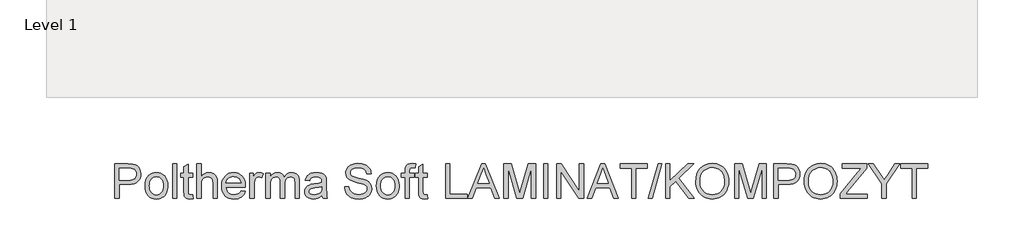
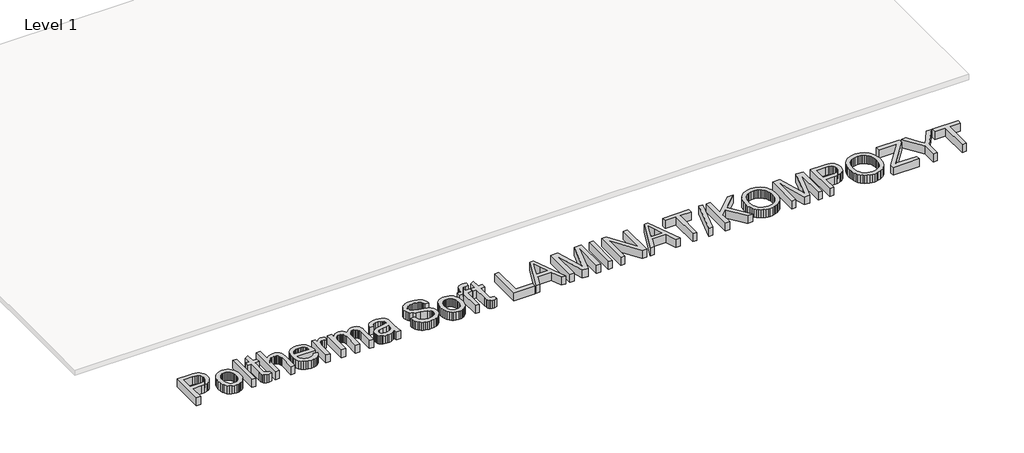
# One storey, part 25 of 27: 1 proxy.
"""IFC4 building model written with IfcOpenShell, lengths in millimetres."""

from ifc_helpers import new_model, si_unit, origin, origin_with_axes, place, context, project, spatial, polyline, outline, extrude, element, save

model = new_model("IFC4")

# Units and contexts
model_context = context("Model", 3, world=origin())
ifc_project = project(units=[si_unit("LENGTHUNIT", "METRE", prefix="MILLI")], contexts=[model_context])

# Site, building, storey
site = spatial("IfcSite", under=ifc_project)
building = spatial("IfcBuilding", under=site)
storey = spatial("IfcBuildingStorey", under=building, Name="Level 1", Elevation=0.0)

# Proxy
placement = place(None, origin())
element("IfcBuildingElementProxy", 1, Name="600mm Arial", ObjectType="600mm Arial", at=placement, inside=storey, context=model_context, shape_type="SweptSolid", body=[
    extrude(outline(polyline([(80627.0846824, -45088.4076888), (80627.0846824, -44497.6384581), (80846.02699, -44497.6384581), (80897.012567, -44499.0447081), (80934.2962208, -44503.2634581), (80973.653192, -44513.7742754), (81006.0510285, -44530.8836504), (81032.1387689, -44555.3668234), (81052.5654516, -44587.999035), (81065.762567, -44626.4906215), (81070.1616054, -44668.5519196), (81067.191353, -44704.8169436), (81058.2805958, -44738.1793234), (81043.4293338, -44768.639059), (81022.637567, -44796.1961504), (80994.0933963, -44819.0386984), (80955.9849227, -44835.3548042), (80908.3121463, -44845.1444677), (80851.075067, -44848.4076888), (80700.9308362, -44848.4076888), (80700.9308362, -45088.4076888), (80627.0846824, -45088.4076888)]), holes=[polyline([(80700.9308362, -44774.561535), (80855.40199, -44774.561535), (80890.918817, -44772.8668234), (80920.8827593, -44767.7826888), (80945.293817, -44759.3091311), (80964.15199, -44747.4461504), (80978.2235045, -44732.5092513), (80988.2745862, -44714.8139388), (80994.3052352, -44694.3602129), (80996.3154516, -44671.1480734), (80991.573865, -44637.9749965), (80977.3491054, -44609.9942273), (80955.4079997, -44588.936535), (80927.5173747, -44576.5326888), (80899.0317977, -44572.7466311), (80853.6712208, -44571.4846119), (80700.9308362, -44571.4846119), (80700.9308362, -44774.561535)])]), origin_with_axes(), (0.0, 0.0, 1.0), 150.0),
    extrude(outline(polyline([(81144.0077593, -44871.4846119), (81148.0011487, -44815.2977129), (81159.981317, -44766.8812465), (81179.9482641, -44726.2352129), (81207.90199, -44693.3596119), (81236.0450189, -44672.3469917), (81267.1087208, -44657.3379773), (81301.0930958, -44648.3325686), (81337.9981439, -44645.3307657), (81378.738829, -44648.9861143), (81415.5762689, -44659.95216), (81448.5104636, -44678.2289028), (81477.5414131, -44703.8163427), (81501.2358242, -44735.8490951), (81518.1604035, -44773.4617754), (81528.3151511, -44816.6543835), (81531.700067, -44865.4269196), (81530.2036727, -44904.9551648), (81525.71449, -44940.030285), (81518.2325189, -44970.6522802), (81507.7577593, -44996.8211504), (81494.4209203, -45019.4248162), (81478.3527112, -45039.3511984), (81459.5531319, -45056.600297), (81438.0221824, -45071.1721119), (81414.598204, -45082.7511383), (81390.1195381, -45091.0218715), (81364.5861848, -45095.9843114), (81337.9981439, -45097.6384581), (81296.6625069, -45093.9966311), (81259.4825189, -45083.0711504), (81226.4581799, -45064.8620157), (81197.58949, -45039.3692273), (81174.1474828, -45007.0254773), (81157.403192, -44968.2634581), (81147.3566174, -44923.0831696), (81144.0077593, -44871.4846119)]), holes=[polyline([(81217.8539131, -44871.3403811), (81219.9903314, -44907.1591912), (81226.3995862, -44938.1733138), (81237.0816775, -44964.3827489), (81252.0366054, -44985.7874965), (81270.2277112, -45002.4145999), (81290.6183362, -45014.2911023), (81313.2084804, -45021.4170037), (81337.9981439, -45023.7923042), (81362.6616054, -45021.4034821), (81385.1616054, -45014.2370157), (81405.4981439, -45002.2929052), (81423.6712208, -44985.5711504), (81438.6261487, -44963.9545638), (81449.30824, -44937.3259581), (81455.7174949, -44905.6853331), (81457.8539131, -44869.0326888), (81455.7039732, -44834.349696), (81449.2541535, -44804.1468715), (81438.504454, -44778.4242153), (81423.4548747, -44757.1817273), (81405.2141896, -44740.5546239), (81384.8911727, -44728.6781215), (81362.4858242, -44721.5522201), (81337.9981439, -44719.1769196), (81313.2084804, -44721.5432056), (81290.6183362, -44728.6420638), (81270.2277112, -44740.4734941), (81252.0366054, -44757.0374965), (81237.0816775, -44778.3791431), (81226.3995862, -44804.5435061), (81219.9903314, -44835.5305855), (81217.8539131, -44871.3403811)])]), origin_with_axes(), (0.0, 0.0, 1.0), 150.0),
    extrude(outline(polyline([(81614.77699, -45088.4076888), (81614.77699, -44497.6384581), (81688.6231439, -44497.6384581), (81688.6231439, -45088.4076888), (81614.77699, -45088.4076888)])), origin_with_axes(), (0.0, 0.0, 1.0), 150.0),
    extrude(outline(polyline([(81956.3154516, -45026.8211504), (81965.5462208, -45090.5711504), (81910.3058362, -45097.6384581), (81874.8611247, -45094.5735542), (81848.4308362, -45085.3788427), (81829.7529516, -45071.2081696), (81817.5654516, -45053.2153811), (81810.8587208, -45022.3139388), (81808.6231439, -44969.4173042), (81808.6231439, -44728.4076888), (81753.2385285, -44728.4076888), (81753.2385285, -44654.561535), (81808.6231439, -44654.561535), (81808.6231439, -44549.1288427), (81882.4692977, -44505.7153811), (81882.4692977, -44654.561535), (81956.3154516, -44654.561535), (81956.3154516, -44728.4076888), (81882.4692977, -44728.4076888), (81882.4692977, -44967.2538427), (81886.3635285, -45005.3307657), (81898.9837208, -45018.8163427), (81909.6387689, -45022.5483138), (81924.15199, -45023.7923042), (81956.3154516, -45026.8211504)])), origin_with_axes(), (0.0, 0.0, 1.0), 150.0),
    extrude(outline(polyline([(82030.1616054, -45088.4076888), (82030.1616054, -44497.6384581), (82104.0077593, -44497.6384581), (82104.0077593, -44714.8499965), (82131.1321583, -44684.4353331), (82161.5918939, -44662.7105734), (82195.386966, -44649.6757177), (82232.5173747, -44645.3307657), (82277.12074, -44650.0723523), (82315.450067, -44664.2971119), (82345.6303554, -44686.8872561), (82365.7866054, -44716.7249965), (82377.1447785, -44757.7225927), (82380.9308362, -44813.7923042), (82380.9308362, -45088.4076888), (82307.0846824, -45088.4076888), (82307.0846824, -44821.436535), (82305.6153314, -44796.5026407), (82301.2072785, -44775.2105734), (82293.8605237, -44757.5603331), (82283.575067, -44743.5519196), (82270.5942977, -44732.8878571), (82255.1616054, -44725.2706696), (82237.27699, -44720.7003571), (82216.9404516, -44719.1769196), (82185.7325189, -44723.2874965), (82156.4356439, -44735.6192273), (82132.168817, -44754.9822081), (82116.0510285, -44780.186535), (82107.0185766, -44813.6841311), (82104.0077593, -44857.9269196), (82104.0077593, -45088.4076888), (82030.1616054, -45088.4076888)])), origin_with_axes(), (0.0, 0.0, 1.0), 150.0),
    extrude(outline(polyline([(82786.2192977, -44959.1769196), (82858.6231439, -44968.4076888), (82847.5218819, -44997.4070879), (82832.5354035, -45022.9629773), (82813.6637088, -45045.0753571), (82790.9067977, -45063.7442273), (82764.4990453, -45078.5729532), (82734.6748266, -45089.1649004), (82701.4341415, -45095.5200686), (82664.77699, -45097.6384581), (82618.9566775, -45093.9831095), (82578.1303554, -45083.0170638), (82542.2980237, -45064.740321), (82511.4596824, -45039.1528811), (82486.6610045, -45006.9668835), (82468.9476631, -44968.8944677), (82458.3196583, -44924.9356335), (82454.77699, -44875.0903811), (82458.355716, -44823.5549244), (82469.0918939, -44778.1312465), (82486.9855237, -44738.8193475), (82512.0366054, -44705.6192273), (82542.793817, -44679.2430254), (82577.8058362, -44660.4028811), (82617.0726631, -44649.0987946), (82660.5942977, -44645.3307657), (82702.7141896, -44649.0897802), (82740.8046343, -44660.3668234), (82774.8656319, -44679.1618956), (82804.8971824, -44705.4749965), (82829.4119059, -44738.6030013), (82846.9224227, -44777.842785), (82857.4287328, -44823.1943475), (82860.9308362, -44874.6576888), (82860.4981439, -44894.561535), (82528.6231439, -44894.561535), (82532.9004876, -44924.029684), (82541.4055958, -44949.8379773), (82554.1384684, -44971.9864148), (82571.0991054, -44990.4749965), (82591.3500069, -45005.0513186), (82613.9536727, -45015.4629773), (82638.910103, -45021.7099725), (82666.2192977, -45023.7923042), (82705.5221824, -45019.9341311), (82738.6231439, -45008.3596119), (82765.5221824, -44988.3475927), (82786.2192977, -44959.1769196)]), holes=[polyline([(82528.6231439, -44820.7153811), (82787.0846824, -44820.7153811), (82777.0967016, -44781.7009581), (82768.5059564, -44766.35841), (82757.5173747, -44753.7923042), (82737.3791535, -44738.6480734), (82714.46449, -44727.8307657), (82688.7733843, -44721.3403811), (82660.3058362, -44719.1769196), (82634.3397905, -44720.9031816), (82610.528192, -44726.0819677), (82588.8710405, -44734.7132778), (82569.3683362, -44746.7971119), (82553.0026511, -44761.7745758), (82540.7565574, -44779.0867754), (82532.6300549, -44798.7337105), (82528.6231439, -44820.7153811)])]), origin_with_axes(), (0.0, 0.0, 1.0), 150.0),
    extrude(outline(polyline([(82934.77699, -45088.4076888), (82934.77699, -44654.561535), (82999.3923747, -44654.561535), (82999.3923747, -44718.7442273), (83023.262567, -44681.5326888), (83045.2577593, -44659.6096119), (83067.325067, -44648.9004773), (83091.4116054, -44645.3307657), (83128.1904516, -44651.0278811), (83165.5462208, -44668.1192273), (83140.8827593, -44734.3211504), (83114.9212208, -44722.9629773), (83088.9596824, -44719.1769196), (83066.9104035, -44722.8187465), (83047.2048747, -44733.7442273), (83031.2854035, -44751.124035), (83020.5942977, -44774.1288427), (83011.6159324, -44815.3788427), (83008.6231439, -44860.3788427), (83008.6231439, -45088.4076888), (82934.77699, -45088.4076888)])), origin_with_axes(), (0.0, 0.0, 1.0), 150.0),
    extrude(outline(polyline([(83211.700067, -45088.4076888), (83211.700067, -44654.561535), (83285.5462208, -44654.561535), (83285.5462208, -44725.9557657), (83307.7577593, -44693.1612946), (83336.3154516, -44667.4701888), (83370.24574, -44650.8656215), (83408.575067, -44645.3307657), (83449.6447785, -44650.9737946), (83467.1237449, -44658.0275806), (83482.5654516, -44667.9028811), (83507.1567977, -44695.0002369), (83523.2385285, -44731.1480734), (83550.1555958, -44693.6030013), (83580.8587208, -44666.7850927), (83615.3479035, -44650.6943475), (83653.6231439, -44645.3307657), (83683.1859444, -44647.5618355), (83709.1339612, -44654.2550446), (83731.4671944, -44665.4103931), (83750.1856439, -44681.0278811), (83764.9828194, -44701.287797), (83775.5522304, -44726.3704292), (83781.8938771, -44756.2757778), (83784.0077593, -44791.0038427), (83784.0077593, -45088.4076888), (83710.1616054, -45088.4076888), (83710.1616054, -44822.7346119), (83708.448865, -44785.9016792), (83703.3106439, -44761.0759581), (83693.68324, -44744.0747561), (83678.5029516, -44730.7153811), (83658.9777112, -44722.061535), (83636.3154516, -44719.1769196), (83615.3884684, -44721.0248763), (83596.309442, -44726.5687465), (83579.0783723, -44735.8085302), (83563.6952593, -44748.7442273), (83551.0435165, -44765.7544436), (83542.0065574, -44787.217785), (83536.5843819, -44813.1342513), (83534.77699, -44843.5038427), (83534.77699, -45088.4076888), (83460.9308362, -45088.4076888), (83460.9308362, -44814.5134581), (83456.6579997, -44772.7586504), (83443.83949, -44742.9749965), (83433.9281319, -44732.5633379), (83421.2854035, -44725.1264388), (83405.9113049, -44720.6642994), (83387.8058362, -44719.1769196), (83359.356317, -44723.1432657), (83333.1423747, -44735.0423042), (83311.5077593, -44754.5855734), (83296.7962208, -44781.4846119), (83288.3587208, -44818.8043234), (83285.5462208, -44869.6096119), (83285.5462208, -45088.4076888), (83211.700067, -45088.4076888)])), origin_with_axes(), (0.0, 0.0, 1.0), 150.0),
    extrude(outline(polyline([(84171.700067, -45033.0230734), (84136.417615, -45063.2754773), (84100.08949, -45083.0711504), (84061.886365, -45093.9966311), (84020.9789131, -45097.6384581), (83988.0988049, -45095.4479532), (83959.2661727, -45088.8764388), (83934.4810165, -45077.9239148), (83913.7433362, -45062.5903811), (83897.3686367, -45043.8493956), (83885.6724227, -45022.6745157), (83878.6546944, -44999.0657417), (83876.3154516, -44973.0230734), (83879.8491054, -44942.4100927), (83890.450067, -44914.6096119), (83906.8022304, -44890.811535), (83927.58949, -44872.2057657), (83952.0185766, -44858.1432657), (83979.2962208, -44847.9749965), (84043.1904516, -44836.8692273), (84118.6952593, -44825.186535), (84171.2673747, -44811.4846119), (84171.700067, -44795.0423042), (84166.6159324, -44762.0855734), (84160.2607641, -44749.8800446), (84151.3635285, -44740.5230734), (84135.9849227, -44731.1841311), (84117.2529516, -44724.5134581), (84069.7289131, -44719.1769196), (84025.7385285, -44722.7286023), (83995.0173747, -44733.3836504), (83974.0678554, -44753.0891792), (83959.3923747, -44783.7923042), (83885.5462208, -44774.561535), (83898.3647304, -44734.1769196), (83917.4933362, -44702.4461504), (83944.7168939, -44678.1793234), (83981.8202593, -44660.186535), (84027.198865, -44649.0447081), (84079.2481439, -44645.3307657), (84129.1700189, -44648.6120157), (84168.7433362, -44658.4557657), (84198.5810766, -44673.2574484), (84219.2962208, -44691.4124965), (84233.0342016, -44713.85841), (84241.9404516, -44741.5326888), (84245.5462208, -44806.1480734), (84245.5462208, -44898.0230734), (84249.2962208, -45026.3163427), (84254.8491054, -45058.0290831), (84264.0077593, -45088.4076888), (84190.1616054, -45088.4076888), (84178.3346824, -45062.7346119), (84171.700067, -45033.0230734)]), holes=[polyline([(84171.700067, -44885.3307657), (84122.0846824, -44897.6264388), (84052.5654516, -44907.9749965), (83989.0317977, -44919.9461504), (83972.4993458, -44928.1312465), (83960.2577593, -44939.4173042), (83952.6856439, -44952.9389388), (83950.1616054, -44967.8307657), (83955.6604035, -44989.7899004), (83972.1567977, -45007.7826888), (83999.2902112, -45019.7899004), (84036.700067, -45023.7923042), (84076.3635285, -45019.3752369), (84111.4116054, -45006.124035), (84139.825067, -44986.5987946), (84159.5846824, -44963.3596119), (84168.3467016, -44939.4173042), (84171.2673747, -44906.2442273), (84171.700067, -44885.3307657)])]), origin_with_axes(), (0.0, 0.0, 1.0), 150.0),
    extrude(outline(polyline([(84559.3923747, -44885.3307657), (84633.2385285, -44885.3307657), (84641.7120862, -44926.3103331), (84657.0366054, -44959.249035), (84680.9428554, -44985.3908619), (84715.1616054, -45005.9798042), (84756.9885285, -45019.3391792), (84803.7192977, -45023.7923042), (84844.8611247, -45020.42091), (84880.8827593, -45010.3067273), (84910.0714612, -44994.2971119), (84930.71449, -44973.2394196), (84942.9921343, -44949.0627369), (84947.0846824, -44923.6961504), (84944.0197785, -44898.9786023), (84934.825067, -44877.6144196), (84916.1471824, -44859.3872561), (84884.6327593, -44844.0807657), (84777.1087208, -44815.8836504), (84706.5257881, -44797.2237946), (84661.3635285, -44779.4653811), (84624.6027112, -44754.6216311), (84598.5510285, -44724.5134581), (84583.028192, -44689.7899004), (84577.8539131, -44651.0999965), (84579.4539732, -44629.1093114), (84584.2541535, -44607.8487946), (84592.254454, -44587.318446), (84603.4548747, -44567.5182657), (84617.7292136, -44549.2550446), (84634.9512689, -44533.3355734), (84655.1210405, -44519.7598523), (84678.2385285, -44508.5278811), (84730.1976631, -44493.4377369), (84787.7096824, -44488.4076888), (84850.0173747, -44493.6721119), (84904.5366054, -44509.4653811), (84928.3887689, -44521.2292032), (84949.3202593, -44535.4629773), (84967.3310766, -44552.1667032), (84982.4212208, -44571.3403811), (84994.4735045, -44592.4251167), (85003.37074, -44614.8620157), (85009.1129275, -44638.6510782), (85011.700067, -44663.7923042), (84937.8539131, -44663.7923042), (84932.9140093, -44640.2286023), (84924.2962208, -44619.7298042), (84912.0005477, -44602.29591), (84896.02699, -44587.9269196), (84876.0780718, -44576.6949484), (84851.856317, -44568.6721119), (84823.3617256, -44563.85841), (84790.5942977, -44562.2538427), (84756.7811968, -44563.8403811), (84727.8899708, -44568.5999965), (84703.9206199, -44576.5326888), (84684.8731439, -44587.6384581), (84670.3599227, -44600.9888186), (84659.9933362, -44615.655285), (84653.7733843, -44631.6378571), (84651.700067, -44648.936535), (84657.5774708, -44677.3139388), (84675.2096824, -44700.1384581), (84691.3995862, -44710.2886984), (84716.8923747, -44720.5471119), (84795.7866054, -44741.3884581), (84877.2048747, -44761.1841311), (84926.4596824, -44778.4557657), (84968.5570381, -44805.2466311), (84984.832579, -44820.9948282), (84997.9260285, -44838.311535), (85007.9906319, -44857.1066071), (85015.1796343, -44877.2899004), (85020.9308362, -44921.8211504), (85019.2766896, -44944.9206095), (85014.3142497, -44967.3439869), (85006.0435165, -44989.0912826), (84994.46449, -45010.1624965), (84979.7799949, -45029.7418234), (84962.1928554, -45047.0134581), (84941.7030718, -45061.9774004), (84918.3106439, -45074.6336504), (84892.6961607, -45084.6982537), (84865.5402112, -45091.8872561), (84806.6039131, -45097.6384581), (84768.8289732, -45096.0879773), (84734.2541535, -45091.436535), (84702.879454, -45083.6841311), (84674.7048747, -45072.8307657), (84649.5591415, -45058.85841), (84627.2709804, -45041.749035), (84607.8403915, -45021.5026407), (84591.2673747, -44998.1192273), (84577.9170141, -44972.3560061), (84568.1543939, -44944.9701888), (84561.9795141, -44915.9617754), (84559.3923747, -44885.3307657)])), origin_with_axes(), (0.0, 0.0, 1.0), 150.0),
    extrude(outline(polyline([(85104.0077593, -44871.4846119), (85108.0011487, -44815.2977129), (85119.981317, -44766.8812465), (85139.9482641, -44726.2352129), (85167.90199, -44693.3596119), (85196.0450189, -44672.3469917), (85227.1087208, -44657.3379773), (85261.0930958, -44648.3325686), (85297.9981439, -44645.3307657), (85338.738829, -44648.9861143), (85375.5762689, -44659.95216), (85408.5104636, -44678.2289028), (85437.5414131, -44703.8163427), (85461.2358242, -44735.8490951), (85478.1604035, -44773.4617754), (85488.3151511, -44816.6543835), (85491.700067, -44865.4269196), (85490.2036727, -44904.9551648), (85485.71449, -44940.030285), (85478.2325189, -44970.6522802), (85467.7577593, -44996.8211504), (85454.4209203, -45019.4248162), (85438.3527112, -45039.3511984), (85419.5531319, -45056.600297), (85398.0221824, -45071.1721119), (85374.598204, -45082.7511383), (85350.1195381, -45091.0218715), (85324.5861848, -45095.9843114), (85297.9981439, -45097.6384581), (85256.6625069, -45093.9966311), (85219.4825189, -45083.0711504), (85186.4581799, -45064.8620157), (85157.58949, -45039.3692273), (85134.1474828, -45007.0254773), (85117.403192, -44968.2634581), (85107.3566174, -44923.0831696), (85104.0077593, -44871.4846119)]), holes=[polyline([(85177.8539131, -44871.3403811), (85179.9903314, -44907.1591912), (85186.3995862, -44938.1733138), (85197.0816775, -44964.3827489), (85212.0366054, -44985.7874965), (85230.2277112, -45002.4145999), (85250.6183362, -45014.2911023), (85273.2084804, -45021.4170037), (85297.9981439, -45023.7923042), (85322.6616054, -45021.4034821), (85345.1616054, -45014.2370157), (85365.4981439, -45002.2929052), (85383.6712208, -44985.5711504), (85398.6261487, -44963.9545638), (85409.30824, -44937.3259581), (85415.7174949, -44905.6853331), (85417.8539131, -44869.0326888), (85415.7039732, -44834.349696), (85409.2541535, -44804.1468715), (85398.504454, -44778.4242153), (85383.4548747, -44757.1817273), (85365.2141896, -44740.5546239), (85344.8911727, -44728.6781215), (85322.4858242, -44721.5522201), (85297.9981439, -44719.1769196), (85273.2084804, -44721.5432056), (85250.6183362, -44728.6420638), (85230.2277112, -44740.4734941), (85212.0366054, -44757.0374965), (85197.0816775, -44778.3791431), (85186.3995862, -44804.5435061), (85179.9903314, -44835.5305855), (85177.8539131, -44871.3403811)])]), origin_with_axes(), (0.0, 0.0, 1.0), 150.0),
    extrude(outline(polyline([(85593.2385285, -45088.4076888), (85593.2385285, -44728.4076888), (85528.6231439, -44728.4076888), (85528.6231439, -44654.561535), (85593.2385285, -44654.561535), (85593.2385285, -44610.8596119), (85595.1856439, -44574.6937465), (85601.02699, -44549.2730734), (85615.8827593, -44524.717785), (85638.8154516, -44505.2826888), (85670.9067977, -44492.6264388), (85713.2385285, -44488.4076888), (85745.293817, -44490.4269196), (85780.5942977, -44496.4846119), (85769.77699, -44565.7153811), (85727.2289131, -44562.2538427), (85699.1579997, -44565.3187465), (85680.71449, -44574.5134581), (85670.4921343, -44592.0735542), (85667.0846824, -44620.2346119), (85667.0846824, -44654.561535), (85750.1616054, -44654.561535), (85750.1616054, -44728.4076888), (85667.0846824, -44728.4076888), (85667.0846824, -45088.4076888), (85593.2385285, -45088.4076888)])), origin_with_axes(), (0.0, 0.0, 1.0), 150.0),
    extrude(outline(polyline([(85971.700067, -45026.8211504), (85980.9308362, -45090.5711504), (85925.6904516, -45097.6384581), (85890.24574, -45094.5735542), (85863.8154516, -45085.3788427), (85845.137567, -45071.2081696), (85832.950067, -45053.2153811), (85826.2433362, -45022.3139388), (85824.0077593, -44969.4173042), (85824.0077593, -44728.4076888), (85768.6231439, -44728.4076888), (85768.6231439, -44654.561535), (85824.0077593, -44654.561535), (85824.0077593, -44549.1288427), (85897.8539131, -44505.7153811), (85897.8539131, -44654.561535), (85971.700067, -44654.561535), (85971.700067, -44728.4076888), (85897.8539131, -44728.4076888), (85897.8539131, -44967.2538427), (85901.7481439, -45005.3307657), (85914.3683362, -45018.8163427), (85925.0233843, -45022.5483138), (85939.5366054, -45023.7923042), (85971.700067, -45026.8211504)])), origin_with_axes(), (0.0, 0.0, 1.0), 150.0),
    extrude(outline(polyline([(86285.5462208, -45088.4076888), (86285.5462208, -44497.6384581), (86359.3923747, -44497.6384581), (86359.3923747, -45014.561535), (86654.77699, -45014.561535), (86654.77699, -45088.4076888), (86285.5462208, -45088.4076888)])), origin_with_axes(), (0.0, 0.0, 1.0), 150.0),
    extrude(outline(polyline([(86669.0558362, -45088.4076888), (86904.8731439, -44497.6384581), (86967.7577593, -44497.6384581), (87203.575067, -45088.4076888), (87125.5462208, -45088.4076888), (87057.90199, -44903.7923042), (86814.5846824, -44903.7923042), (86747.0846824, -45088.4076888), (86669.0558362, -45088.4076888)]), holes=[polyline([(86841.700067, -44829.9461504), (87030.9308362, -44829.9461504), (86977.7096824, -44684.7057657), (86936.3154516, -44571.4846119), (86899.5366054, -44672.0134581), (86841.700067, -44829.9461504)])]), origin_with_axes(), (0.0, 0.0, 1.0), 150.0),
    extrude(outline(polyline([(87282.4692977, -45088.4076888), (87282.4692977, -44497.6384581), (87409.5366054, -44497.6384581), (87530.40199, -44914.0326888), (87554.77699, -45001.0038427), (87581.1712208, -44906.8211504), (87700.0173747, -44497.6384581), (87827.0846824, -44497.6384581), (87827.0846824, -45088.4076888), (87753.2385285, -45088.4076888), (87753.2385285, -44571.4846119), (87604.825067, -45088.4076888), (87504.7289131, -45088.4076888), (87356.3154516, -44571.4846119), (87356.3154516, -45088.4076888), (87282.4692977, -45088.4076888)])), origin_with_axes(), (0.0, 0.0, 1.0), 150.0),
    extrude(outline(polyline([(87965.5462208, -45088.4076888), (87965.5462208, -44497.6384581), (88039.3923747, -44497.6384581), (88039.3923747, -45088.4076888), (87965.5462208, -45088.4076888)])), origin_with_axes(), (0.0, 0.0, 1.0), 150.0),
    extrude(outline(polyline([(88187.0846824, -45088.4076888), (88187.0846824, -44497.6384581), (88266.1231439, -44497.6384581), (88574.77699, -44965.6673042), (88574.77699, -44497.6384581), (88648.6231439, -44497.6384581), (88648.6231439, -45088.4076888), (88569.5846824, -45088.4076888), (88260.9308362, -44620.2346119), (88260.9308362, -45088.4076888), (88187.0846824, -45088.4076888)])), origin_with_axes(), (0.0, 0.0, 1.0), 150.0),
    extrude(outline(polyline([(88709.0558362, -45088.4076888), (88944.8731439, -44497.6384581), (89007.7577593, -44497.6384581), (89243.575067, -45088.4076888), (89165.5462208, -45088.4076888), (89097.90199, -44903.7923042), (88854.5846824, -44903.7923042), (88787.0846824, -45088.4076888), (88709.0558362, -45088.4076888)]), holes=[polyline([(88881.700067, -44829.9461504), (89070.9308362, -44829.9461504), (89017.7096824, -44684.7057657), (88976.3154516, -44571.4846119), (88939.5366054, -44672.0134581), (88881.700067, -44829.9461504)])]), origin_with_axes(), (0.0, 0.0, 1.0), 150.0),
    extrude(outline(polyline([(89470.1616054, -45088.4076888), (89470.1616054, -44571.4846119), (89276.3154516, -44571.4846119), (89276.3154516, -44497.6384581), (89737.8539131, -44497.6384581), (89737.8539131, -44571.4846119), (89544.0077593, -44571.4846119), (89544.0077593, -45088.4076888), (89470.1616054, -45088.4076888)])), origin_with_axes(), (0.0, 0.0, 1.0), 150.0),
    extrude(outline(polyline([(89756.3154516, -45088.4076888), (89922.4692977, -44497.6384581), (89989.1039131, -44497.6384581), (89822.950067, -45088.4076888), (89756.3154516, -45088.4076888)])), origin_with_axes(), (0.0, 0.0, 1.0), 150.0),
    extrude(outline(polyline([(90051.700067, -45088.4076888), (90051.700067, -44497.6384581), (90125.5462208, -44497.6384581), (90125.5462208, -44786.8211504), (90428.4308362, -44497.6384581), (90531.700067, -44497.6384581), (90277.4212208, -44740.5230734), (90540.9308362, -45088.4076888), (90450.6423747, -45088.4076888), (90225.0654516, -44790.4269196), (90125.5462208, -44885.3307657), (90125.5462208, -45088.4076888), (90051.700067, -45088.4076888)])), origin_with_axes(), (0.0, 0.0, 1.0), 150.0),
    extrude(outline(polyline([(90568.6231439, -44800.811535), (90573.5450189, -44731.5176648), (90588.3106439, -44670.1745157), (90612.9200189, -44616.7820879), (90647.3731439, -44571.3403811), (90689.605716, -44535.0573282), (90737.5534324, -44509.1408619), (90791.2162929, -44493.5909821), (90850.5942977, -44488.4076888), (90890.3388891, -44490.8415831), (90928.0822785, -44498.1432657), (90963.824466, -44510.3127369), (90997.5654516, -44527.3499965), (91028.3587208, -44548.7412225), (91055.2577593, -44573.9725927), (91078.262567, -44603.0441071), (91097.3731439, -44635.9557657), (91112.3911727, -44671.9593715), (91123.1183362, -44710.3067273), (91129.5546343, -44750.9978331), (91131.700067, -44794.0326888), (91129.441954, -44837.6354532), (91122.667615, -44878.8764388), (91111.3770501, -44917.7556456), (91095.5702593, -44954.2730734), (91075.621341, -44987.4641792), (91051.9043939, -45016.3644196), (91024.4194179, -45040.9737946), (90993.1664131, -45061.2923042), (90959.3758482, -45077.1937465), (90924.278192, -45088.5519196), (90887.8734444, -45095.3668234), (90850.1616054, -45097.6384581), (90809.7229035, -45095.1279412), (90771.4837208, -45087.5963907), (90735.4440574, -45075.0438066), (90701.6039131, -45057.4701888), (90670.8467016, -45035.5561263), (90644.0558362, -45009.9822081), (90621.231317, -44980.748434), (90602.3731439, -44947.8548042), (90587.6075189, -44912.6219316), (90577.0606439, -44876.3704292), (90570.7325189, -44839.100297), (90568.6231439, -44800.811535)]), holes=[polyline([(90642.4692977, -44801.5326888), (90646.160704, -44850.4900206), (90657.2349227, -44893.9485542), (90675.691954, -44931.9082898), (90701.5317977, -44964.3692273), (90732.9425549, -44990.3668234), (90768.1123266, -45008.936535), (90807.0411126, -45020.0783619), (90849.7289131, -45023.7923042), (90893.1468819, -45020.0423042), (90932.5354035, -45008.7923042), (90967.894478, -44990.0423042), (90999.2241054, -44963.7923042), (91024.8746463, -44930.6462706), (91043.1964612, -44891.2081696), (91054.1895501, -44845.4780013), (91057.8539131, -44793.4557657), (91056.2854035, -44759.6606936), (91051.5798747, -44728.0831696), (91043.7373266, -44698.7231936), (91032.7577593, -44671.5807657), (91018.7628674, -44647.0119556), (91001.8743458, -44625.3728331), (90982.0921944, -44606.663398), (90959.4164131, -44590.8836504), (90934.5501271, -44578.3581095), (90908.1964612, -44569.4112946), (90880.3554155, -44564.0432056), (90851.02699, -44562.2538427), (90809.8220622, -44565.7018595), (90771.5918939, -44576.04591), (90736.3364852, -44593.2859941), (90704.0558362, -44617.4221119), (90677.1117256, -44649.6171239), (90657.8659324, -44691.0338907), (90646.3184564, -44741.6724124), (90642.4692977, -44801.5326888)])]), origin_with_axes(), (0.0, 0.0, 1.0), 150.0),
    extrude(outline(polyline([(91233.2385285, -45088.4076888), (91233.2385285, -44497.6384581), (91360.3058362, -44497.6384581), (91481.1712208, -44914.0326888), (91505.5462208, -45001.0038427), (91531.9404516, -44906.8211504), (91650.7866054, -44497.6384581), (91777.8539131, -44497.6384581), (91777.8539131, -45088.4076888), (91704.0077593, -45088.4076888), (91704.0077593, -44571.4846119), (91555.5942977, -45088.4076888), (91455.4981439, -45088.4076888), (91307.0846824, -44571.4846119), (91307.0846824, -45088.4076888), (91233.2385285, -45088.4076888)])), origin_with_axes(), (0.0, 0.0, 1.0), 150.0),
    extrude(outline(polyline([(91907.0846824, -45088.4076888), (91907.0846824, -44497.6384581), (92126.02699, -44497.6384581), (92177.012567, -44499.0447081), (92214.2962208, -44503.2634581), (92253.653192, -44513.7742754), (92286.0510285, -44530.8836504), (92312.1387689, -44555.3668234), (92332.5654516, -44587.999035), (92345.762567, -44626.4906215), (92350.1616054, -44668.5519196), (92347.191353, -44704.8169436), (92338.2805958, -44738.1793234), (92323.4293338, -44768.639059), (92302.637567, -44796.1961504), (92274.0933963, -44819.0386984), (92235.9849227, -44835.3548042), (92188.3121463, -44845.1444677), (92131.075067, -44848.4076888), (91980.9308362, -44848.4076888), (91980.9308362, -45088.4076888), (91907.0846824, -45088.4076888)]), holes=[polyline([(91980.9308362, -44774.561535), (92135.40199, -44774.561535), (92170.918817, -44772.8668234), (92200.8827593, -44767.7826888), (92225.293817, -44759.3091311), (92244.15199, -44747.4461504), (92258.2235045, -44732.5092513), (92268.2745862, -44714.8139388), (92274.3052352, -44694.3602129), (92276.3154516, -44671.1480734), (92271.573865, -44637.9749965), (92257.3491054, -44609.9942273), (92235.4079997, -44588.936535), (92207.5173747, -44576.5326888), (92179.0317977, -44572.7466311), (92133.6712208, -44571.4846119), (91980.9308362, -44571.4846119), (91980.9308362, -44774.561535)])]), origin_with_axes(), (0.0, 0.0, 1.0), 150.0),
    extrude(outline(polyline([(92424.0077593, -44800.811535), (92428.9296343, -44731.5176648), (92443.6952593, -44670.1745157), (92468.3046343, -44616.7820879), (92502.7577593, -44571.3403811), (92544.9903314, -44535.0573282), (92592.9380477, -44509.1408619), (92646.6009083, -44493.5909821), (92705.9789131, -44488.4076888), (92745.7235045, -44490.8415831), (92783.4668939, -44498.1432657), (92819.2090814, -44510.3127369), (92852.950067, -44527.3499965), (92883.7433362, -44548.7412225), (92910.6423747, -44573.9725927), (92933.6471824, -44603.0441071), (92952.7577593, -44635.9557657), (92967.7757881, -44671.9593715), (92978.5029516, -44710.3067273), (92984.9392497, -44750.9978331), (92987.0846824, -44794.0326888), (92984.8265694, -44837.6354532), (92978.0522304, -44878.8764388), (92966.7616655, -44917.7556456), (92950.9548747, -44954.2730734), (92931.0059564, -44987.4641792), (92907.2890093, -45016.3644196), (92879.8040333, -45040.9737946), (92848.5510285, -45061.2923042), (92814.7604636, -45077.1937465), (92779.6628074, -45088.5519196), (92743.2580598, -45095.3668234), (92705.5462208, -45097.6384581), (92665.1075189, -45095.1279412), (92626.8683362, -45087.5963907), (92590.8286727, -45075.0438066), (92556.9885285, -45057.4701888), (92526.231317, -45035.5561263), (92499.4404516, -45009.9822081), (92476.6159324, -44980.748434), (92457.7577593, -44947.8548042), (92442.9921343, -44912.6219316), (92432.4452593, -44876.3704292), (92426.1171343, -44839.100297), (92424.0077593, -44800.811535)]), holes=[polyline([(92497.8539131, -44801.5326888), (92501.5453194, -44850.4900206), (92512.6195381, -44893.9485542), (92531.0765694, -44931.9082898), (92556.9164131, -44964.3692273), (92588.3271703, -44990.3668234), (92623.496942, -45008.936535), (92662.425728, -45020.0783619), (92705.1135285, -45023.7923042), (92748.5314973, -45020.0423042), (92787.9200189, -45008.7923042), (92823.2790934, -44990.0423042), (92854.6087208, -44963.7923042), (92880.2592617, -44930.6462706), (92898.5810766, -44891.2081696), (92909.5741655, -44845.4780013), (92913.2385285, -44793.4557657), (92911.6700189, -44759.6606936), (92906.96449, -44728.0831696), (92899.121942, -44698.7231936), (92888.1423747, -44671.5807657), (92874.1474828, -44647.0119556), (92857.2589612, -44625.3728331), (92837.4768098, -44606.663398), (92814.8010285, -44590.8836504), (92789.9347424, -44578.3581095), (92763.5810766, -44569.4112946), (92735.7400309, -44564.0432056), (92706.4116054, -44562.2538427), (92665.2066775, -44565.7018595), (92626.9765093, -44576.04591), (92591.7211006, -44593.2859941), (92559.4404516, -44617.4221119), (92532.496341, -44649.6171239), (92513.2505477, -44691.0338907), (92501.7030718, -44741.6724124), (92497.8539131, -44801.5326888)])]), origin_with_axes(), (0.0, 0.0, 1.0), 150.0),
    extrude(outline(polyline([(93042.4692977, -45088.4076888), (93042.4692977, -45011.8211504), (93344.6327593, -44641.8692273), (93402.0366054, -44571.4846119), (93079.3923747, -44571.4846119), (93079.3923747, -44497.6384581), (93494.77699, -44497.6384581), (93494.77699, -44571.4846119), (93164.0558362, -44976.3403811), (93132.90199, -45014.561535), (93504.0077593, -45014.561535), (93504.0077593, -45088.4076888), (93042.4692977, -45088.4076888)])), origin_with_axes(), (0.0, 0.0, 1.0), 150.0),
    extrude(outline(polyline([(93753.2385285, -45088.4076888), (93753.2385285, -44838.1673042), (93522.4692977, -44497.6384581), (93609.5846824, -44497.6384581), (93732.7577593, -44679.5134581), (93795.7866054, -44772.2538427), (93858.9596824, -44672.8788427), (93970.7385285, -44497.6384581), (94057.8539131, -44497.6384581), (93827.0846824, -44838.1673042), (93827.0846824, -45088.4076888), (93753.2385285, -45088.4076888)])), origin_with_axes(), (0.0, 0.0, 1.0), 150.0),
    extrude(outline(polyline([(94270.1616054, -45088.4076888), (94270.1616054, -44571.4846119), (94076.3154516, -44571.4846119), (94076.3154516, -44497.6384581), (94537.8539131, -44497.6384581), (94537.8539131, -44571.4846119), (94344.0077593, -44571.4846119), (94344.0077593, -45088.4076888), (94270.1616054, -45088.4076888)])), origin_with_axes(), (0.0, 0.0, 1.0), 150.0),
])

save(model, "model.ifc")
